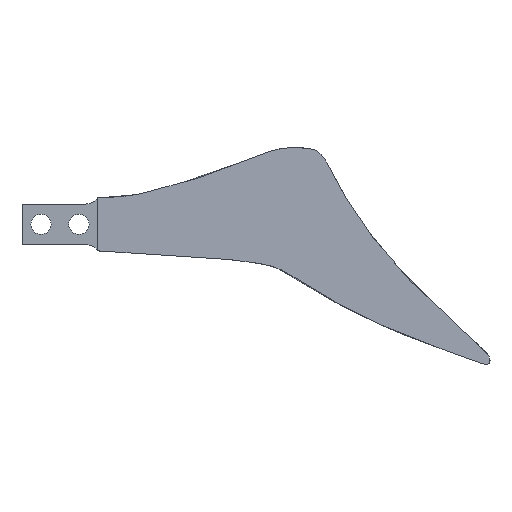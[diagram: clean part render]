
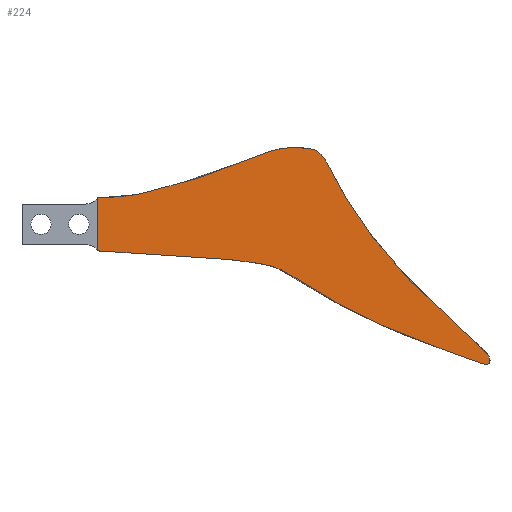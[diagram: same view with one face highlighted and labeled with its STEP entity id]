
A CAD part, top view. The second image highlights one B-rep face of the part: STEP entity #224.
In plain terms, the highlighted planar face has unit normal (0.029, 0, 1).
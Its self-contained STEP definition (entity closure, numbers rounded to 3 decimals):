
#16=B_SPLINE_CURVE_WITH_KNOTS('',3,(#375,#376,#377,#378,#379,#380,#381,
#382,#383,#384,#385,#386,#387,#388,#389,#390,#391,#392,#393,#394,#395,#396,
#397,#398,#399,#400,#401,#402,#403,#404,#405,#406,#407,#408,#409,#410,#411,
#412,#413,#414,#415,#416,#417,#418,#419,#420,#421,#422,#423,#424,#425,#426,
#427,#428,#429,#430,#431,#432,#433,#434,#435,#436,#437,#438,#439,#440,#441,
#442,#443,#444,#445,#446,#447,#448,#449,#450,#451,#452,#453,#454,#455,#456,
#457,#458,#459,#460,#461,#462),.UNSPECIFIED.,.F.,.F.,(4,3,3,3,3,3,3,3,3,
3,3,3,3,3,3,3,3,3,3,3,3,3,3,3,3,3,3,3,3,4),(-33.218,-32.18,
-31.635,-30.017,-28.141,-27.675,
-25.946,-24.294,-23.33,-22.775,
-22.427,-21.685,-20.802,-20.149,
-19.424,-18.597,-17.056,-14.924,
-13.758,-12.735,-12.015,-9.72,
-8.628,-7.545,-6.806,-5.877,
-4.408,-3.604,-1.802,0.),.UNSPECIFIED.);
#27=PLANE('',#259);
#39=FACE_OUTER_BOUND('',#56,.T.);
#56=EDGE_LOOP('',(#197,#198,#199));
#69=LINE('',#361,#88);
#76=LINE('',#463,#95);
#88=VECTOR('',#301,10.);
#95=VECTOR('',#316,10.);
#113=VERTEX_POINT('',#342);
#115=VERTEX_POINT('',#347);
#122=VERTEX_POINT('',#374);
#141=EDGE_CURVE('',#113,#115,#69,.T.);
#148=EDGE_CURVE('',#115,#122,#16,.T.);
#149=EDGE_CURVE('',#122,#113,#76,.T.);
#197=ORIENTED_EDGE('',*,*,#148,.T.);
#198=ORIENTED_EDGE('',*,*,#149,.T.);
#199=ORIENTED_EDGE('',*,*,#141,.T.);
#224=ADVANCED_FACE('',(#39),#27,.T.);
#259=AXIS2_PLACEMENT_3D('',#373,#314,#315);
#301=DIRECTION('',(0.,-1.,0.));
#314=DIRECTION('center_axis',(0.029,0.,1.));
#315=DIRECTION('ref_axis',(-1.,0.,0.029));
#316=DIRECTION('',(-1.,0.,0.029));
#342=CARTESIAN_POINT('',(137.332,-41.582,5.));
#347=CARTESIAN_POINT('',(137.332,-52.085,5.));
#361=CARTESIAN_POINT('',(137.332,-52.085,5.));
#373=CARTESIAN_POINT('Origin',(224.527,0.,2.5));
#374=CARTESIAN_POINT('',(137.738,-41.582,4.988));
#375=CARTESIAN_POINT('Ctrl Pts',(137.332,-52.085,5.));
#376=CARTESIAN_POINT('Ctrl Pts',(141.458,-52.315,4.882));
#377=CARTESIAN_POINT('Ctrl Pts',(146.619,-52.608,4.734));
#378=CARTESIAN_POINT('Ctrl Pts',(151.156,-52.893,4.604));
#379=CARTESIAN_POINT('Ctrl Pts',(153.539,-53.043,4.535));
#380=CARTESIAN_POINT('Ctrl Pts',(155.695,-53.188,4.473));
#381=CARTESIAN_POINT('Ctrl Pts',(157.572,-53.324,4.42));
#382=CARTESIAN_POINT('Ctrl Pts',(163.142,-53.73,4.26));
#383=CARTESIAN_POINT('Ctrl Pts',(166.485,-54.076,4.164));
#384=CARTESIAN_POINT('Ctrl Pts',(168.832,-54.477,4.097));
#385=CARTESIAN_POINT('Ctrl Pts',(171.554,-54.942,4.019));
#386=CARTESIAN_POINT('Ctrl Pts',(173.041,-55.504,3.976));
#387=CARTESIAN_POINT('Ctrl Pts',(174.68,-56.415,3.929));
#388=CARTESIAN_POINT('Ctrl Pts',(175.088,-56.641,3.917));
#389=CARTESIAN_POINT('Ctrl Pts',(175.524,-56.9,3.905));
#390=CARTESIAN_POINT('Ctrl Pts',(176.076,-57.24,3.889));
#391=CARTESIAN_POINT('Ctrl Pts',(178.125,-58.501,3.83));
#392=CARTESIAN_POINT('Ctrl Pts',(181.378,-60.665,3.737));
#393=CARTESIAN_POINT('Ctrl Pts',(185.388,-62.842,3.622));
#394=CARTESIAN_POINT('Ctrl Pts',(189.219,-64.92,3.512));
#395=CARTESIAN_POINT('Ctrl Pts',(193.787,-67.003,3.381));
#396=CARTESIAN_POINT('Ctrl Pts',(198.256,-68.831,3.253));
#397=CARTESIAN_POINT('Ctrl Pts',(200.864,-69.898,3.178));
#398=CARTESIAN_POINT('Ctrl Pts',(203.452,-70.878,3.104));
#399=CARTESIAN_POINT('Ctrl Pts',(205.688,-71.68,3.04));
#400=CARTESIAN_POINT('Ctrl Pts',(206.973,-72.141,3.003));
#401=CARTESIAN_POINT('Ctrl Pts',(208.157,-72.551,2.969));
#402=CARTESIAN_POINT('Ctrl Pts',(209.22,-72.924,2.939));
#403=CARTESIAN_POINT('Ctrl Pts',(209.888,-73.158,2.92));
#404=CARTESIAN_POINT('Ctrl Pts',(210.506,-73.378,2.902));
#405=CARTESIAN_POINT('Ctrl Pts',(210.977,-73.548,2.888));
#406=CARTESIAN_POINT('Ctrl Pts',(211.98,-73.91,2.86));
#407=CARTESIAN_POINT('Ctrl Pts',(212.49,-74.103,2.845));
#408=CARTESIAN_POINT('Ctrl Pts',(212.945,-74.257,2.832));
#409=CARTESIAN_POINT('Ctrl Pts',(213.488,-74.439,2.817));
#410=CARTESIAN_POINT('Ctrl Pts',(213.84,-74.546,2.806));
#411=CARTESIAN_POINT('Ctrl Pts',(214.211,-74.512,2.796));
#412=CARTESIAN_POINT('Ctrl Pts',(214.485,-74.487,2.788));
#413=CARTESIAN_POINT('Ctrl Pts',(214.741,-74.319,2.781));
#414=CARTESIAN_POINT('Ctrl Pts',(214.83,-74.062,2.778));
#415=CARTESIAN_POINT('Ctrl Pts',(214.928,-73.777,2.775));
#416=CARTESIAN_POINT('Ctrl Pts',(214.842,-73.36,2.778));
#417=CARTESIAN_POINT('Ctrl Pts',(214.676,-73.021,2.782));
#418=CARTESIAN_POINT('Ctrl Pts',(214.488,-72.634,2.788));
#419=CARTESIAN_POINT('Ctrl Pts',(214.187,-72.234,2.796));
#420=CARTESIAN_POINT('Ctrl Pts',(213.798,-71.802,2.808));
#421=CARTESIAN_POINT('Ctrl Pts',(213.071,-70.998,2.828));
#422=CARTESIAN_POINT('Ctrl Pts',(212.1,-70.15,2.856));
#423=CARTESIAN_POINT('Ctrl Pts',(210.816,-69.039,2.893));
#424=CARTESIAN_POINT('Ctrl Pts',(209.04,-67.503,2.944));
#425=CARTESIAN_POINT('Ctrl Pts',(206.657,-65.458,3.012));
#426=CARTESIAN_POINT('Ctrl Pts',(203.509,-62.401,3.103));
#427=CARTESIAN_POINT('Ctrl Pts',(201.788,-60.73,3.152));
#428=CARTESIAN_POINT('Ctrl Pts',(199.777,-58.692,3.21));
#429=CARTESIAN_POINT('Ctrl Pts',(197.722,-56.478,3.269));
#430=CARTESIAN_POINT('Ctrl Pts',(195.918,-54.533,3.32));
#431=CARTESIAN_POINT('Ctrl Pts',(194.084,-52.458,3.373));
#432=CARTESIAN_POINT('Ctrl Pts',(192.408,-50.388,3.421));
#433=CARTESIAN_POINT('Ctrl Pts',(191.227,-48.931,3.455));
#434=CARTESIAN_POINT('Ctrl Pts',(190.137,-47.483,3.486));
#435=CARTESIAN_POINT('Ctrl Pts',(189.208,-46.143,3.513));
#436=CARTESIAN_POINT('Ctrl Pts',(186.247,-41.872,3.598));
#437=CARTESIAN_POINT('Ctrl Pts',(184.668,-38.431,3.643));
#438=CARTESIAN_POINT('Ctrl Pts',(183.365,-35.977,3.68));
#439=CARTESIAN_POINT('Ctrl Pts',(182.745,-34.808,3.698));
#440=CARTESIAN_POINT('Ctrl Pts',(182.223,-33.919,3.713));
#441=CARTESIAN_POINT('Ctrl Pts',(181.702,-33.299,3.728));
#442=CARTESIAN_POINT('Ctrl Pts',(181.185,-32.685,3.743));
#443=CARTESIAN_POINT('Ctrl Pts',(180.674,-32.314,3.757));
#444=CARTESIAN_POINT('Ctrl Pts',(179.907,-32.062,3.779));
#445=CARTESIAN_POINT('Ctrl Pts',(179.383,-31.889,3.794));
#446=CARTESIAN_POINT('Ctrl Pts',(178.704,-31.775,3.814));
#447=CARTESIAN_POINT('Ctrl Pts',(177.885,-31.716,3.837));
#448=CARTESIAN_POINT('Ctrl Pts',(176.855,-31.642,3.867));
#449=CARTESIAN_POINT('Ctrl Pts',(175.673,-31.651,3.901));
#450=CARTESIAN_POINT('Ctrl Pts',(174.704,-31.726,3.928));
#451=CARTESIAN_POINT('Ctrl Pts',(173.171,-31.844,3.972));
#452=CARTESIAN_POINT('Ctrl Pts',(172.049,-32.134,4.005));
#453=CARTESIAN_POINT('Ctrl Pts',(170.32,-32.771,4.054));
#454=CARTESIAN_POINT('Ctrl Pts',(169.373,-33.12,4.081));
#455=CARTESIAN_POINT('Ctrl Pts',(168.225,-33.579,4.114));
#456=CARTESIAN_POINT('Ctrl Pts',(166.77,-34.153,4.156));
#457=CARTESIAN_POINT('Ctrl Pts',(163.509,-35.44,4.249));
#458=CARTESIAN_POINT('Ctrl Pts',(158.978,-37.143,4.379));
#459=CARTESIAN_POINT('Ctrl Pts',(154.044,-38.68,4.521));
#460=CARTESIAN_POINT('Ctrl Pts',(149.109,-40.216,4.662));
#461=CARTESIAN_POINT('Ctrl Pts',(143.741,-41.582,4.816));
#462=CARTESIAN_POINT('Ctrl Pts',(137.738,-41.582,4.988));
#463=CARTESIAN_POINT('',(181.204,-41.582,3.742));
